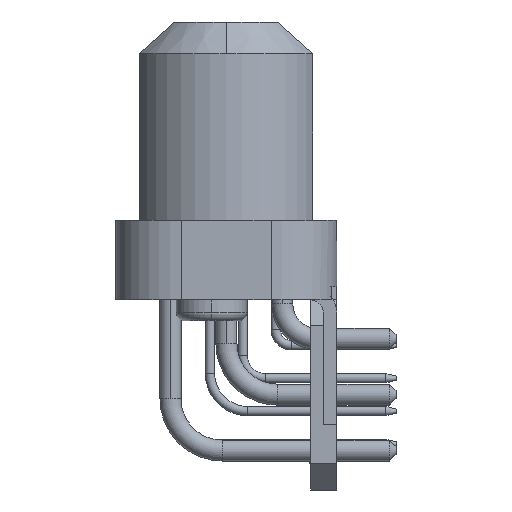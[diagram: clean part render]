
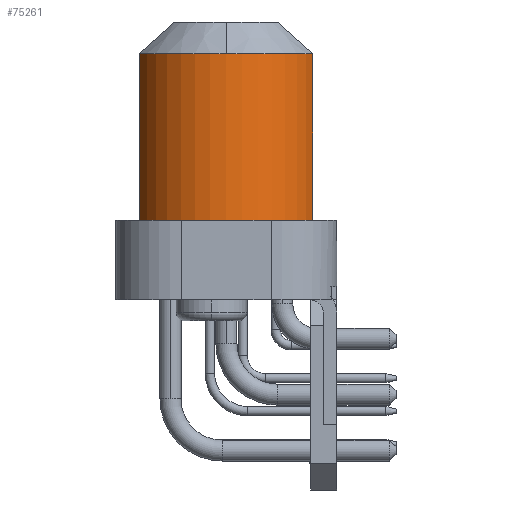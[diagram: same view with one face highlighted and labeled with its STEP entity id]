
A CAD part, left-side view. The second image highlights one B-rep face of the part: STEP entity #75261.
In plain terms, the highlighted cylindrical face has radius 7.02 mm (diameter 14.04 mm), a partial arc.
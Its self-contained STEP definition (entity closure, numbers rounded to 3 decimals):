
#2565 = EDGE_CURVE ( 'NONE', #103548, #68197, #28817, .T. ) ;
#3202 = CARTESIAN_POINT ( 'NONE',  ( -20.42, 0., -12.69 ) ) ;
#3852 = CYLINDRICAL_SURFACE ( 'NONE', #25848, 7.02 ) ;
#4059 = VERTEX_POINT ( 'NONE', #99387 ) ;
#6248 = DIRECTION ( 'NONE',  ( 0., 0., 1. ) ) ;
#10090 = CARTESIAN_POINT ( 'NONE',  ( -22.88, 6.575, 0. ) ) ;
#12574 = DIRECTION ( 'NONE',  ( -1., 0., 0. ) ) ;
#21531 = DIRECTION ( 'NONE',  ( 0., 0., 1. ) ) ;
#25848 = AXIS2_PLACEMENT_3D ( 'NONE', #87744, #134823, #136357 ) ;
#26639 = FACE_OUTER_BOUND ( 'NONE', #53769, .T. ) ;
#28817 = CIRCLE ( 'NONE', #58804, 7.02 ) ;
#34655 = DIRECTION ( 'NONE',  ( -1., 0., 0. ) ) ;
#36211 = CARTESIAN_POINT ( 'NONE',  ( -20.42, 0., 0. ) ) ;
#40051 = LINE ( 'NONE', #110580, #57476 ) ;
#53769 = EDGE_LOOP ( 'NONE', ( #116657, #89579, #88137, #150442, #152686 ) ) ;
#54540 = LINE ( 'NONE', #150158, #119140 ) ;
#56987 = CIRCLE ( 'NONE', #122110, 7.02 ) ;
#57476 = VECTOR ( 'NONE', #6248, 1000. ) ;
#58804 = AXIS2_PLACEMENT_3D ( 'NONE', #84663, #93349, #12574 ) ;
#60353 = VERTEX_POINT ( 'NONE', #129723 ) ;
#68197 = VERTEX_POINT ( 'NONE', #10090 ) ;
#68867 = AXIS2_PLACEMENT_3D ( 'NONE', #36211, #97321, #34655 ) ;
#75261 = ADVANCED_FACE ( 'NONE', ( #26639 ), #3852, .T. ) ;
#76107 = DIRECTION ( 'NONE',  ( 1., 0., 0. ) ) ;
#76817 = CARTESIAN_POINT ( 'NONE',  ( -27.44, 0., 0. ) ) ;
#80808 = CARTESIAN_POINT ( 'NONE',  ( -22.88, -6.575, 0. ) ) ;
#81386 = CIRCLE ( 'NONE', #68867, 7.02 ) ;
#81818 = VERTEX_POINT ( 'NONE', #80808 ) ;
#84663 = CARTESIAN_POINT ( 'NONE',  ( -20.42, 0., 0. ) ) ;
#87744 = CARTESIAN_POINT ( 'NONE',  ( -20.42, 0., -12.69 ) ) ;
#88137 = ORIENTED_EDGE ( 'NONE', *, *, #2565, .T. ) ;
#89579 = ORIENTED_EDGE ( 'NONE', *, *, #100163, .T. ) ;
#93349 = DIRECTION ( 'NONE',  ( 0., 0., -1. ) ) ;
#97321 = DIRECTION ( 'NONE',  ( 0., 0., -1. ) ) ;
#99387 = CARTESIAN_POINT ( 'NONE',  ( -22.88, -6.575, -12.69 ) ) ;
#100163 = EDGE_CURVE ( 'NONE', #81818, #103548, #81386, .T. ) ;
#103548 = VERTEX_POINT ( 'NONE', #76817 ) ;
#110580 = CARTESIAN_POINT ( 'NONE',  ( -22.88, -6.575, -12.69 ) ) ;
#111445 = EDGE_CURVE ( 'NONE', #4059, #81818, #40051, .T. ) ;
#112168 = DIRECTION ( 'NONE',  ( 0., 0., 1. ) ) ;
#116657 = ORIENTED_EDGE ( 'NONE', *, *, #111445, .T. ) ;
#119140 = VECTOR ( 'NONE', #21531, 1000. ) ;
#122110 = AXIS2_PLACEMENT_3D ( 'NONE', #3202, #112168, #76107 ) ;
#128249 = EDGE_CURVE ( 'NONE', #60353, #68197, #54540, .T. ) ;
#129723 = CARTESIAN_POINT ( 'NONE',  ( -22.88, 6.575, -12.69 ) ) ;
#134823 = DIRECTION ( 'NONE',  ( 0., 0., 1. ) ) ;
#136357 = DIRECTION ( 'NONE',  ( 1., 0., 0. ) ) ;
#141786 = EDGE_CURVE ( 'NONE', #60353, #4059, #56987, .T. ) ;
#150158 = CARTESIAN_POINT ( 'NONE',  ( -22.88, 6.575, -12.69 ) ) ;
#150442 = ORIENTED_EDGE ( 'NONE', *, *, #128249, .F. ) ;
#152686 = ORIENTED_EDGE ( 'NONE', *, *, #141786, .T. ) ;
